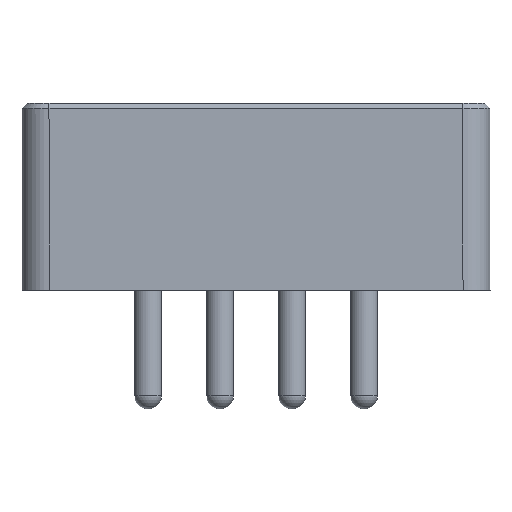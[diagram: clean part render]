
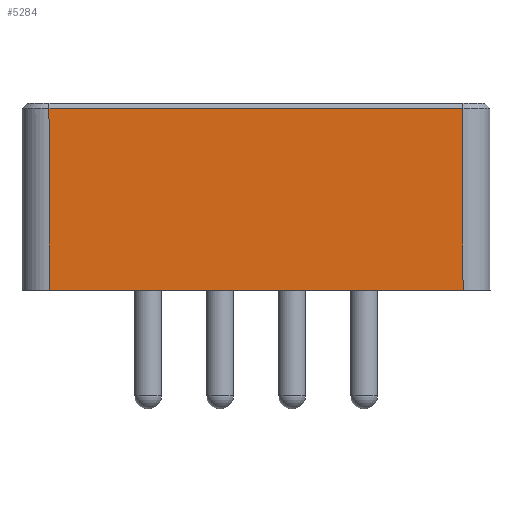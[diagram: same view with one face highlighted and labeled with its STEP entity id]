
A CAD part, left-side view. The second image highlights one B-rep face of the part: STEP entity #5284.
In plain terms, the highlighted planar face has unit normal (-1, 0, 0).
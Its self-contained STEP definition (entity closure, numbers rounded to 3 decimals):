
#3401 = PLANE('',#3402);
#3402 = AXIS2_PLACEMENT_3D('',#3403,#3404,#3405);
#3403 = CARTESIAN_POINT('',(0.,10.4,0.));
#3404 = DIRECTION('',(0.,-1.,0.));
#3405 = DIRECTION('',(0.,0.,-1.));
#5284 = ADVANCED_FACE('',(#5285),#5299,.F.);
#5285 = FACE_BOUND('',#5286,.T.);
#5286 = EDGE_LOOP('',(#5287,#5322,#5350,#5378));
#5287 = ORIENTED_EDGE('',*,*,#5288,.T.);
#5288 = EDGE_CURVE('',#5289,#5291,#5293,.T.);
#5289 = VERTEX_POINT('',#5290);
#5290 = CARTESIAN_POINT('',(0.,10.4,-24.5));
#5291 = VERTEX_POINT('',#5292);
#5292 = CARTESIAN_POINT('',(0.,0.3,-24.5));
#5293 = SURFACE_CURVE('',#5294,(#5298,#5310),.PCURVE_S1.);
#5294 = LINE('',#5295,#5296);
#5295 = CARTESIAN_POINT('',(0.,10.4,-24.5));
#5296 = VECTOR('',#5297,1.);
#5297 = DIRECTION('',(0.,-1.,0.));
#5298 = PCURVE('',#5299,#5304);
#5299 = PLANE('',#5300);
#5300 = AXIS2_PLACEMENT_3D('',#5301,#5302,#5303);
#5301 = CARTESIAN_POINT('',(0.,10.4,0.));
#5302 = DIRECTION('',(1.,0.,0.));
#5303 = DIRECTION('',(0.,0.,-1.));
#5304 = DEFINITIONAL_REPRESENTATION('',(#5305),#5309);
#5305 = LINE('',#5306,#5307);
#5306 = CARTESIAN_POINT('',(24.5,0.));
#5307 = VECTOR('',#5308,1.);
#5308 = DIRECTION('',(0.,-1.));
#5309 = ( GEOMETRIC_REPRESENTATION_CONTEXT(2) 
PARAMETRIC_REPRESENTATION_CONTEXT() REPRESENTATION_CONTEXT('2D SPACE',''
  ) );
#5310 = PCURVE('',#5311,#5316);
#5311 = CYLINDRICAL_SURFACE('',#5312,1.5);
#5312 = AXIS2_PLACEMENT_3D('',#5313,#5314,#5315);
#5313 = CARTESIAN_POINT('',(1.5,10.4,-24.5));
#5314 = DIRECTION('',(0.,-1.,0.));
#5315 = DIRECTION('',(0.,0.,-1.));
#5316 = DEFINITIONAL_REPRESENTATION('',(#5317),#5321);
#5317 = LINE('',#5318,#5319);
#5318 = CARTESIAN_POINT('',(4.712,0.));
#5319 = VECTOR('',#5320,1.);
#5320 = DIRECTION('',(0.,1.));
#5321 = ( GEOMETRIC_REPRESENTATION_CONTEXT(2) 
PARAMETRIC_REPRESENTATION_CONTEXT() REPRESENTATION_CONTEXT('2D SPACE',''
  ) );
#5322 = ORIENTED_EDGE('',*,*,#5323,.T.);
#5323 = EDGE_CURVE('',#5291,#5324,#5326,.T.);
#5324 = VERTEX_POINT('',#5325);
#5325 = CARTESIAN_POINT('',(0.,0.3,-1.5));
#5326 = SURFACE_CURVE('',#5327,(#5331,#5338),.PCURVE_S1.);
#5327 = LINE('',#5328,#5329);
#5328 = CARTESIAN_POINT('',(0.,0.3,-1.5));
#5329 = VECTOR('',#5330,1.);
#5330 = DIRECTION('',(0.,0.,1.));
#5331 = PCURVE('',#5299,#5332);
#5332 = DEFINITIONAL_REPRESENTATION('',(#5333),#5337);
#5333 = LINE('',#5334,#5335);
#5334 = CARTESIAN_POINT('',(1.5,-10.1));
#5335 = VECTOR('',#5336,1.);
#5336 = DIRECTION('',(-1.,0.));
#5337 = ( GEOMETRIC_REPRESENTATION_CONTEXT(2) 
PARAMETRIC_REPRESENTATION_CONTEXT() REPRESENTATION_CONTEXT('2D SPACE',''
  ) );
#5338 = PCURVE('',#5339,#5344);
#5339 = PLANE('',#5340);
#5340 = AXIS2_PLACEMENT_3D('',#5341,#5342,#5343);
#5341 = CARTESIAN_POINT('',(0.,0.3,0.));
#5342 = DIRECTION('',(-0.707,-0.707,0.));
#5343 = DIRECTION('',(0.,0.,-1.));
#5344 = DEFINITIONAL_REPRESENTATION('',(#5345),#5349);
#5345 = LINE('',#5346,#5347);
#5346 = CARTESIAN_POINT('',(1.5,0.));
#5347 = VECTOR('',#5348,1.);
#5348 = DIRECTION('',(-1.,0.));
#5349 = ( GEOMETRIC_REPRESENTATION_CONTEXT(2) 
PARAMETRIC_REPRESENTATION_CONTEXT() REPRESENTATION_CONTEXT('2D SPACE',''
  ) );
#5350 = ORIENTED_EDGE('',*,*,#5351,.T.);
#5351 = EDGE_CURVE('',#5324,#5352,#5354,.T.);
#5352 = VERTEX_POINT('',#5353);
#5353 = CARTESIAN_POINT('',(0.,10.4,-1.5));
#5354 = SURFACE_CURVE('',#5355,(#5359,#5366),.PCURVE_S1.);
#5355 = LINE('',#5356,#5357);
#5356 = CARTESIAN_POINT('',(0.,10.4,-1.5));
#5357 = VECTOR('',#5358,1.);
#5358 = DIRECTION('',(0.,1.,0.));
#5359 = PCURVE('',#5299,#5360);
#5360 = DEFINITIONAL_REPRESENTATION('',(#5361),#5365);
#5361 = LINE('',#5362,#5363);
#5362 = CARTESIAN_POINT('',(1.5,0.));
#5363 = VECTOR('',#5364,1.);
#5364 = DIRECTION('',(0.,1.));
#5365 = ( GEOMETRIC_REPRESENTATION_CONTEXT(2) 
PARAMETRIC_REPRESENTATION_CONTEXT() REPRESENTATION_CONTEXT('2D SPACE',''
  ) );
#5366 = PCURVE('',#5367,#5372);
#5367 = CYLINDRICAL_SURFACE('',#5368,1.5);
#5368 = AXIS2_PLACEMENT_3D('',#5369,#5370,#5371);
#5369 = CARTESIAN_POINT('',(1.5,10.4,-1.5));
#5370 = DIRECTION('',(0.,-1.,0.));
#5371 = DIRECTION('',(0.,0.,-1.));
#5372 = DEFINITIONAL_REPRESENTATION('',(#5373),#5377);
#5373 = LINE('',#5374,#5375);
#5374 = CARTESIAN_POINT('',(4.712,0.));
#5375 = VECTOR('',#5376,1.);
#5376 = DIRECTION('',(0.,-1.));
#5377 = ( GEOMETRIC_REPRESENTATION_CONTEXT(2) 
PARAMETRIC_REPRESENTATION_CONTEXT() REPRESENTATION_CONTEXT('2D SPACE',''
  ) );
#5378 = ORIENTED_EDGE('',*,*,#5379,.F.);
#5379 = EDGE_CURVE('',#5289,#5352,#5380,.T.);
#5380 = SURFACE_CURVE('',#5381,(#5385,#5392),.PCURVE_S1.);
#5381 = LINE('',#5382,#5383);
#5382 = CARTESIAN_POINT('',(0.,10.4,0.));
#5383 = VECTOR('',#5384,1.);
#5384 = DIRECTION('',(0.,0.,1.));
#5385 = PCURVE('',#5299,#5386);
#5386 = DEFINITIONAL_REPRESENTATION('',(#5387),#5391);
#5387 = LINE('',#5388,#5389);
#5388 = CARTESIAN_POINT('',(0.,0.));
#5389 = VECTOR('',#5390,1.);
#5390 = DIRECTION('',(-1.,0.));
#5391 = ( GEOMETRIC_REPRESENTATION_CONTEXT(2) 
PARAMETRIC_REPRESENTATION_CONTEXT() REPRESENTATION_CONTEXT('2D SPACE',''
  ) );
#5392 = PCURVE('',#3401,#5393);
#5393 = DEFINITIONAL_REPRESENTATION('',(#5394),#5398);
#5394 = LINE('',#5395,#5396);
#5395 = CARTESIAN_POINT('',(0.,0.));
#5396 = VECTOR('',#5397,1.);
#5397 = DIRECTION('',(-1.,0.));
#5398 = ( GEOMETRIC_REPRESENTATION_CONTEXT(2) 
PARAMETRIC_REPRESENTATION_CONTEXT() REPRESENTATION_CONTEXT('2D SPACE',''
  ) );
